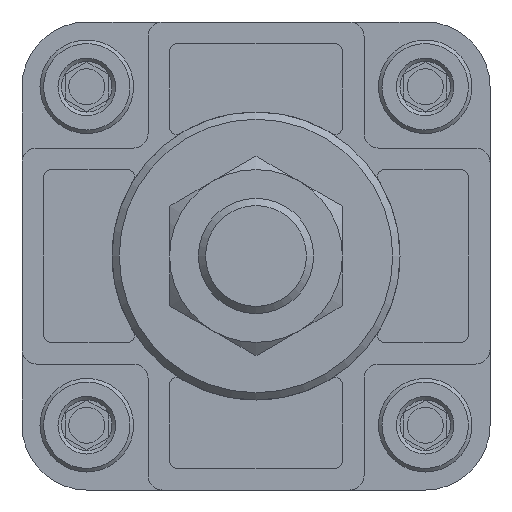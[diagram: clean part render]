
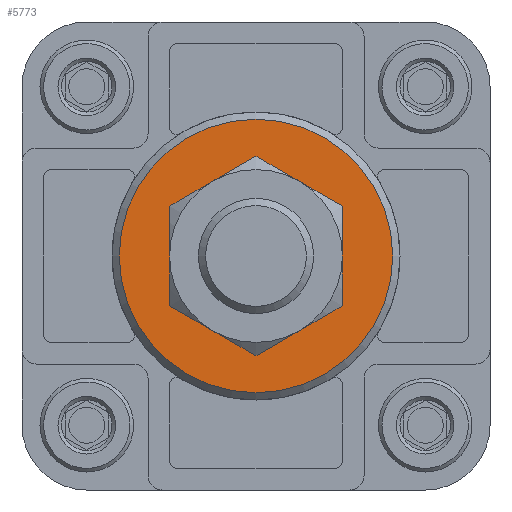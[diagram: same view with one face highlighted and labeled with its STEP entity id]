
A CAD part, front view. The second image highlights one B-rep face of the part: STEP entity #5773.
In plain terms, the highlighted planar face has unit normal (0, -1, 0).
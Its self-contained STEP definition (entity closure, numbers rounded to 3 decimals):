
#877=ORIENTED_EDGE('',*,*,#2047,.T.);
#878=ORIENTED_EDGE('',*,*,#2049,.T.);
#2047=EDGE_CURVE('',#2634,#2634,#3045,.T.);
#2049=EDGE_CURVE('',#2636,#2636,#3047,.F.);
#2634=VERTEX_POINT('',#7881);
#2636=VERTEX_POINT('',#7887);
#3045=CIRCLE('',#6057,11.);
#3047=CIRCLE('',#6061,19.);
#3280=EDGE_LOOP('',(#877));
#3281=EDGE_LOOP('',(#878));
#3624=FACE_BOUND('',#3280,.T.);
#3625=FACE_BOUND('',#3281,.T.);
#3962=PLANE('',#6060);
#5773=ADVANCED_FACE('',(#3624,#3625),#3962,.F.);
#6057=AXIS2_PLACEMENT_3D('',#7880,#6562,#6563);
#6060=AXIS2_PLACEMENT_3D('',#7885,#6568,#6569);
#6061=AXIS2_PLACEMENT_3D('',#7886,#6570,#6571);
#6562=DIRECTION('',(0.,1.,0.));
#6563=DIRECTION('',(0.,0.,1.));
#6568=DIRECTION('',(0.,1.,0.));
#6569=DIRECTION('',(0.,0.,1.));
#6570=DIRECTION('',(0.,1.,0.));
#6571=DIRECTION('',(0.,0.,1.));
#7880=CARTESIAN_POINT('',(0.,-50.,0.));
#7881=CARTESIAN_POINT('',(0.,-50.,11.));
#7885=CARTESIAN_POINT('',(0.,-50.,0.));
#7886=CARTESIAN_POINT('',(0.,-50.,0.));
#7887=CARTESIAN_POINT('',(0.,-50.,19.));
